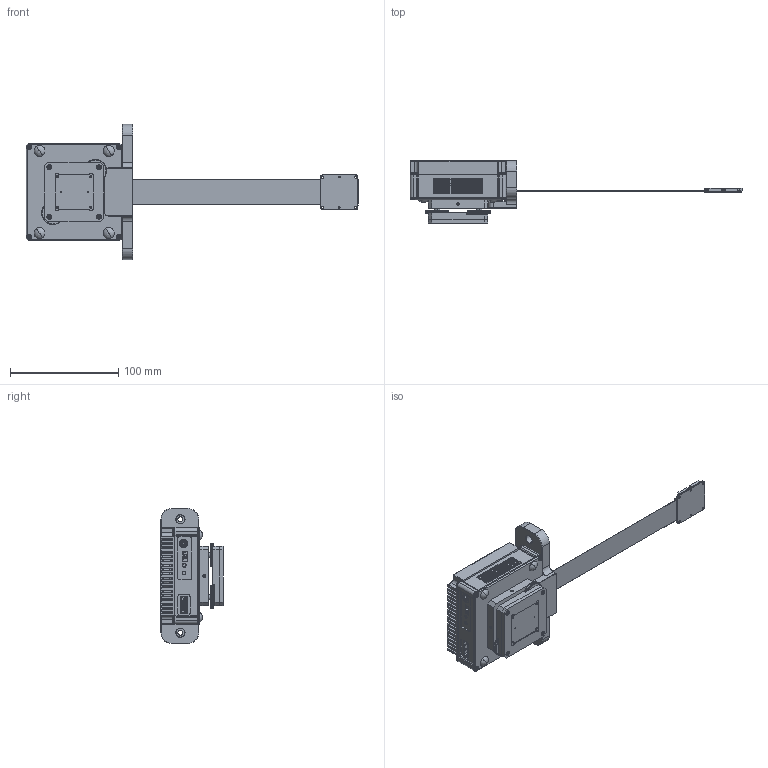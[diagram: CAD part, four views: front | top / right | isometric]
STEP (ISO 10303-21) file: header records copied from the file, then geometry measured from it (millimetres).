
FILE_DESCRIPTION (( 'STEP AP214' ), '1' );
FILE_NAME ('SLM蛌諉蚾饜.STEP', '2026-09-09T03:36:50', ( '' ), ( '' ), 'SwSTEP 2.0', 'SolidWorks 2024', '' );
FILE_SCHEMA (( 'AUTOMOTIVE_DESIGN' ));
Length unit declared in the file: millimetre
Products named in the file (50): ______-1.STEP; ______.STEP; hexagon socket head cap screws gb_GB_FASTENER_SCREWS_HSHCS M3X25-N; cross recessed pan head screws gb_GB_CROSS_SCREWS_TYPE1 M2X6-6  H type-N.STEP; FSLM-2K73-P系列（方板外甩）一体产品图（20cm排线）.STEP; CUI_PJ-051AH.STEP.STEP.STEP; ____ - 2.STEP; 2K X 2K-A1__________.STEP; ____2K-A1.STEP; cross recessed countersunk head screws gb1_GB_CROSS_SCREWS_TYPE4 M1.6X3-2  H type-N.STEP; __________A1______.STEP; CUI_DEVICES_PJ-051AH.STEP.STEP.STEP; 5010____________.STEP; COMPONENTS.STEP.STEP.STEP; ____________________.STEP; 2k73-A01-DIE.STEP; User Library-eg1270.STEP.STEP.STEP; MS-DRV-2K73-AP-V10____________.STEP; ______-3.STEP; _HDMR-19-01-S-SM-TR_b.STEP.STEP.STEP; ________-2.STEP; MT41K256M16TW-107(colon)P.STEP.STEP.STEP; 1056319_1-1634010-0.STEP.STEP.STEP; cross recessed countersunk head screws gb2_GB_CROSS_SCREWS_TYPE10 M2X4-2.8-H1-N.STEP; 10-2____.STEP; BGA96C80P9X16_1400X800X120.STEP.STEP.STEP; cross recessed countersunk head screws gb2_GB_CROSS_SCREWS_TYPE10 M2X5-3.8-H1-N.STEP; SMD_HDMIA_RA.STEP.STEP.STEP; FH30M80S04SHW05.STEP.STEP.STEP; ____.STEP; SLM转接板; S4B-ZR-SM4A-TF(LF)(SN).STEP.STEP.STEP; _HDMR-19-01-S-SM-TR_p.STEP.STEP.STEP; FH30M-80S-0.4SHW.STEP.STEP.STEP; SLM转接装配; ____-0.STEP; USB_MICRO_B.STEP.STEP.STEP; hexagon socket head cap screws gb_GB_FASTENER_SCREWS_HSHCS M6X10-N; EG1270.STEP.STEP.STEP; _HDMR-19-01-S-SM-TR_s.STEP.STEP.STEP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
Assembly tree (79 placements, depth 8):
  SLM转接装配
    FSLM-2K73-P系列（方板外甩）一体产品图（20cm排线）.STEP
      MS-DRV-2K73-AP-V10____________.STEP
        MS-DRV-2K73-AP-V10.STEP.STEP
          COMPONENTS.STEP.STEP.STEP
            CUI_PJ-051AH.STEP.STEP.STEP
              CUI_DEVICES_PJ-051AH.STEP.STEP.STEP
            EG1270.STEP.STEP.STEP
              User Library-eg1270.STEP.STEP.STEP
            FH30M80S04SHW05.STEP.STEP.STEP
              FH30M-80S-0.4SHW.STEP.STEP.STEP
            CONN_S4B-ZR_JST.STEP.STEP.STEP
              S4B-ZR-SM4A-TF(LF)(SN).STEP.STEP.STEP
            TE_1-1634010-0.STEP.STEP.STEP  x2
              1056319_1-1634010-0.STEP.STEP.STEP
            BGA96C80P9X16_1400X800X120.STEP.STEP.STEP
              MT41K256M16TW-107(colon)P.STEP.STEP.STEP
            SMD_HDMIA_RA.STEP.STEP.STEP
              HDMR-19-01-S-SM-TR.STEP.STEP.STEP
                _HDMR-19-01-S-SM-TR_b.STEP.STEP.STEP
                _HDMR-19-01-S-SM-TR_s.STEP.STEP.STEP
                _HDMR-19-01-S-SM-TR_p.STEP.STEP.STEP
            USB_MICRO_B.STEP.STEP.STEP
              1521869_1981584-1.STEP.STEP.STEP
          BOARD.STEP.STEP.STEP
      2K X 2K-A1__________.STEP
        ______-A1.STEP
        ____2K-A1.STEP
        2k73-A01-DIE.STEP
        ______.STEP
        cross recessed countersunk head screws gb1_GB_CROSS_SCREWS_TYPE4 M1.6X3-2  H type-N.STEP  x2
      ____.STEP
      ____-0.STEP
      ______-1.STEP
      5010____________.STEP
      ________.STEP
      ____ - 2.STEP
      ________-2.STEP  x2
      cross recessed countersunk head screws gb2_GB_CROSS_SCREWS_TYPE10 M2X5-3.8-H1-N.STEP  x14
      cross recessed pan head screws gb_GB_CROSS_SCREWS_TYPE1 M2X6-6  H type-N.STEP  x3
      M2-5____.STEP  x4
      cross recessed pan head screws gb_GB_CROSS_SCREWS_TYPE1 M2X5-5  H type-N.STEP  x4
      ____________________.STEP
      cross recessed countersunk head screws gb2_GB_CROSS_SCREWS_TYPE10 M2X4-2.8-H1-N.STEP  x4
      10-2____.STEP  x4
      ______-3.STEP
      __________A1______.STEP
    SLM转接板
    hexagon socket head cap screws gb_GB_FASTENER_SCREWS_HSHCS M6X10-N
    hexagon socket head cap screws gb_GB_FASTENER_SCREWS_HSHCS M3X25-N
Bounding box: 307.18 x 57.5 x 125 mm (x, y, z)
Volume: 218081.6 mm3; surface area: 162400.6 mm2
Topology: 172 solids, 177 shells, 7899 faces, 22401 edges, 14535 vertices
Faces by surface type: plane 5213, cylinder 2118, bspline 251, cone 246, torus 37, sphere 34
Entity records: 244673 total; most frequent: CARTESIAN_POINT 51795, ORIENTED_EDGE 40570, DIRECTION 38483, EDGE_CURVE 20293, VECTOR 15455, LINE 15455, VERTEX_POINT 13469, AXIS2_PLACEMENT_3D 11514
